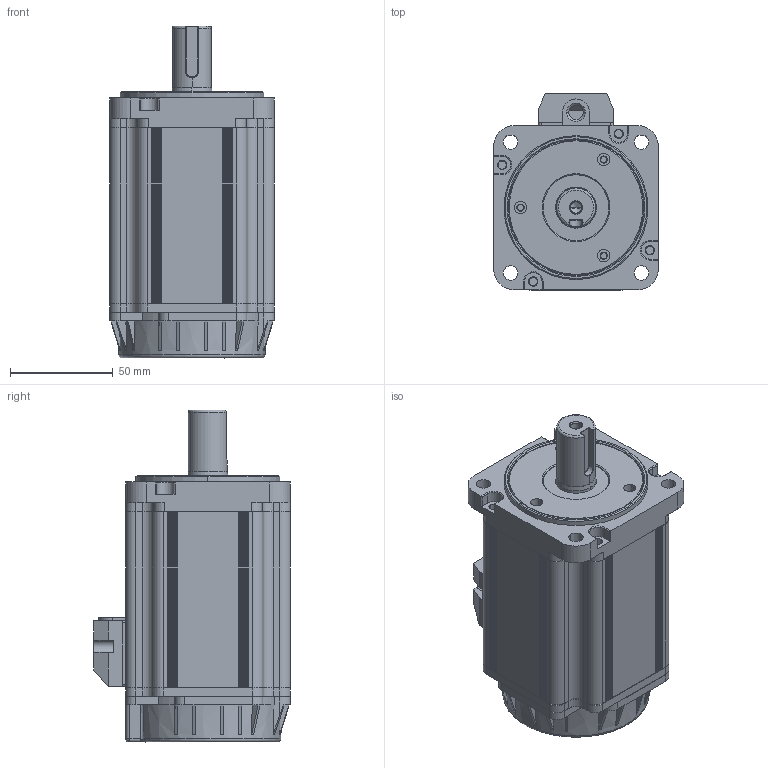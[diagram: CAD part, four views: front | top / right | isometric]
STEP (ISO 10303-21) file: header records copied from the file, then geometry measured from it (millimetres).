
FILE_DESCRIPTION((''),'2;1');
FILE_NAME('80-CB_ASM','2020-04-07T',('Administrator'),(''),'PRO/ENGINEER BY PARAMETRIC TECHNOLOGY CORPORATION, 2009440','PRO/ENGINEER BY PARAMETRIC TECHNOLOGY CORPORATION, 2009440','');
FILE_SCHEMA(('CONFIG_CONTROL_DESIGN'));
Length unit declared in the file: millimetre
Products named in the file (13): 80-750-JK; DYX-CT; DYX-YXH; 80-DZ-750_ASM; 80-750W-Z; 80-750W-ZZ_ASM; 80-HDG_1; 80-NKH; 80-Q; 80-ZCYG; GB-T9877-20X32X6L; 80-Q_ASM; 80-CB_ASM
Assembly tree (12 placements, depth 3):
  80-CB_ASM
    80-DZ-750_ASM
      80-750-JK
      DYX-CT
      DYX-YXH
    80-750W-ZZ_ASM
      80-750W-Z
    80-HDG_1
    80-NKH
    80-Q_ASM
      80-Q
      80-ZCYG
      GB-T9877-20X32X6L
Bounding box: 80 x 95.5 x 161.5 mm (x, y, z)
Volume: 319694.2 mm3; surface area: 148893.6 mm2
Topology: 9 solids, 11 shells, 1505 faces, 3831 edges, 2385 vertices
Faces by surface type: plane 568, cylinder 505, torus 162, cone 160, bspline 76, sphere 34
Entity records: 50029 total; most frequent: CARTESIAN_POINT 12847, DIRECTION 7981, ORIENTED_EDGE 7646, EDGE_CURVE 3827, AXIS2_PLACEMENT_3D 2995, VERTEX_POINT 2385, VECTOR 1991, LINE 1991
